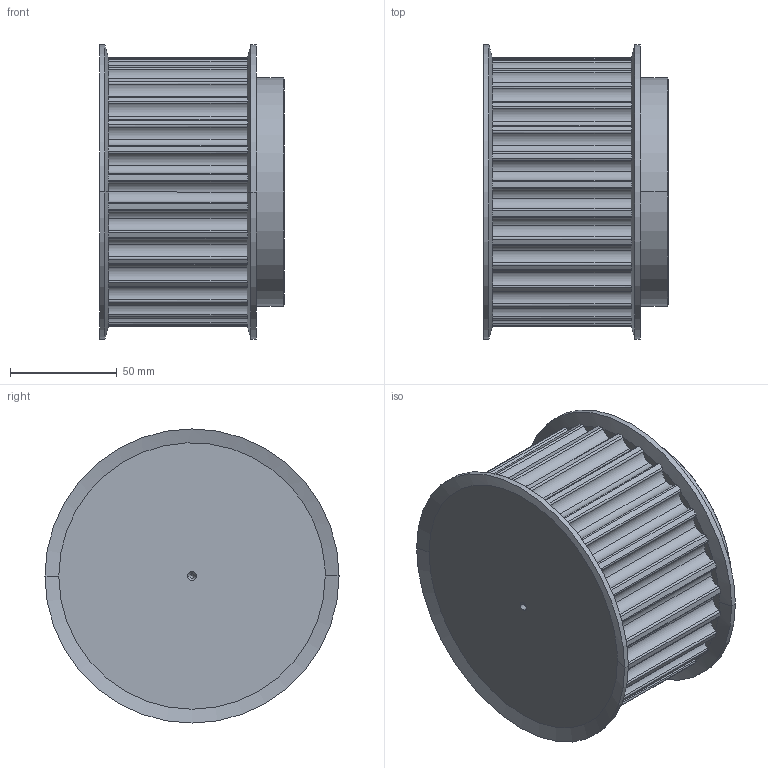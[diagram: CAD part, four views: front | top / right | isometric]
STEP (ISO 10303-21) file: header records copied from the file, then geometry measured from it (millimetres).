
FILE_DESCRIPTION(('STEP AP203'),'1');
FILE_NAME('29_-_14_m_55.stp','2020-03-10T08:29:02',('TraceParts'),('TraceParts S.A.'),'Spatial InterOp 3D',' ',' ');
FILE_SCHEMA(('CONFIG_CONTROL_DESIGN'));
Length unit declared in the file: millimetre
Products named in the file (1): 1
Bounding box: 86.74 x 138 x 138 mm (x, y, z)
Volume: 963294.9 mm3; surface area: 77561.4 mm2
Topology: 1 solids, 1 shells, 234 faces, 679 edges, 446 vertices
Faces by surface type: cylinder 155, plane 61, cone 18
Entity records: 8745 total; most frequent: CARTESIAN_POINT 2400, DIRECTION 1415, ORIENTED_EDGE 1350, EDGE_CURVE 675, AXIS2_PLACEMENT_3D 621, VERTEX_POINT 446, CIRCLE 386, EDGE_LOOP 237
